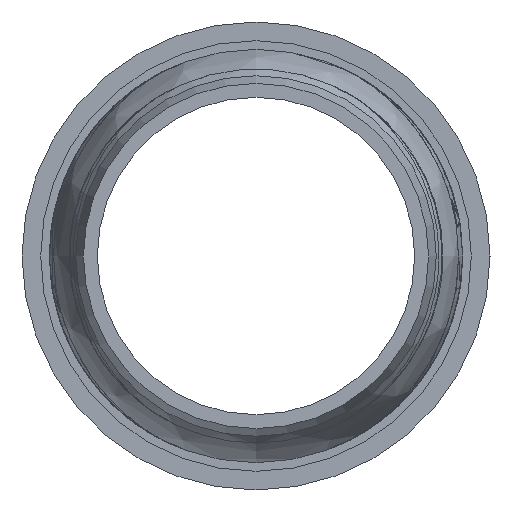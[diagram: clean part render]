
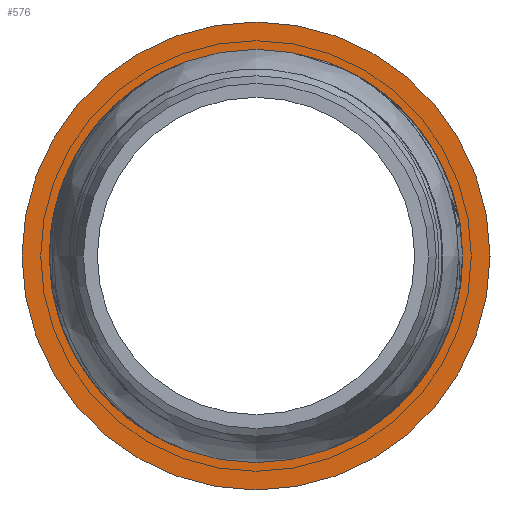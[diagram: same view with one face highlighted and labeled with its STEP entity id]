
A CAD part, left-side view. The second image highlights one B-rep face of the part: STEP entity #576.
In plain terms, the highlighted planar face has unit normal (-1, 0, 0).
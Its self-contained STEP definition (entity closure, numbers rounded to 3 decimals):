
#82=PLANE('',#641);
#113=FACE_BOUND('',#210,.T.);
#149=FACE_OUTER_BOUND('',#209,.T.);
#209=EDGE_LOOP('',(#490));
#210=EDGE_LOOP('',(#491));
#244=CIRCLE('',#640,28.15);
#245=CIRCLE('',#642,32.55);
#301=VERTEX_POINT('',#2075);
#302=VERTEX_POINT('',#2078);
#366=EDGE_CURVE('',#301,#301,#244,.T.);
#367=EDGE_CURVE('',#302,#302,#245,.T.);
#490=ORIENTED_EDGE('',*,*,#367,.F.);
#491=ORIENTED_EDGE('',*,*,#366,.T.);
#576=ADVANCED_FACE('',(#149,#113),#82,.T.);
#640=AXIS2_PLACEMENT_3D('',#2076,#760,#761);
#641=AXIS2_PLACEMENT_3D('',#2077,#762,#763);
#642=AXIS2_PLACEMENT_3D('',#2079,#764,#765);
#760=DIRECTION('center_axis',(1.,0.,0.));
#761=DIRECTION('ref_axis',(0.,0.,
1.));
#762=DIRECTION('center_axis',(-1.,0.,0.));
#763=DIRECTION('ref_axis',(0.,0.,-1.));
#764=DIRECTION('center_axis',(1.,0.,0.));
#765=DIRECTION('ref_axis',(0.,0.,
1.));
#2075=CARTESIAN_POINT('',(1532.85,-28.15,0.));
#2076=CARTESIAN_POINT('Origin',(1532.85,0.,
0.));
#2077=CARTESIAN_POINT('Origin',(1532.85,-32.55,0.));
#2078=CARTESIAN_POINT('',(1532.85,-32.55,0.));
#2079=CARTESIAN_POINT('Origin',(1532.85,0.,
0.));
